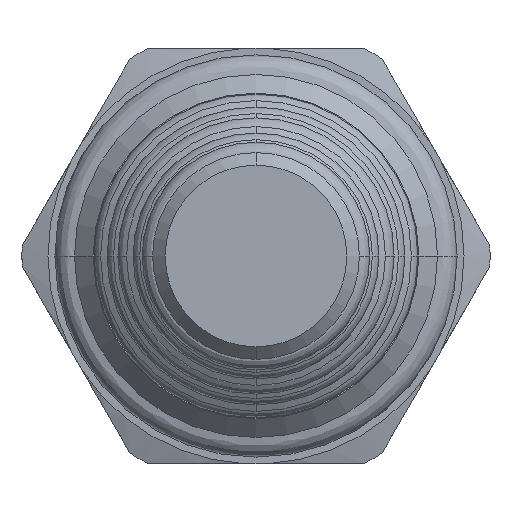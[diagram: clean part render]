
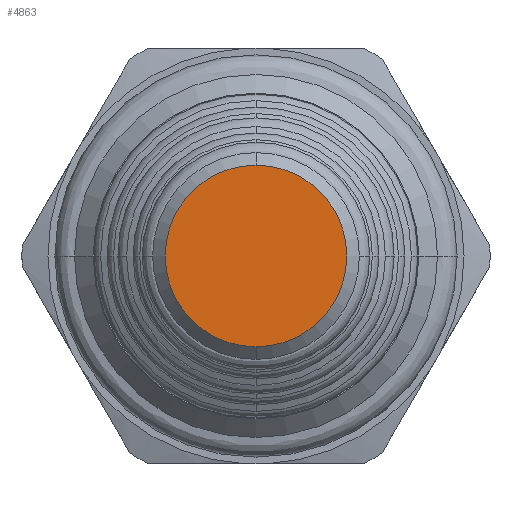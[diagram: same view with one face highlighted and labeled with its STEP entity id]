
A CAD part, front view. The second image highlights one B-rep face of the part: STEP entity #4863.
In plain terms, the highlighted planar face has unit normal (0, -1, 0).
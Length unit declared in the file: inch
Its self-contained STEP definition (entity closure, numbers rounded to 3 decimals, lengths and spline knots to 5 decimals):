
#1059=CARTESIAN_POINT('',(0.,-3.696,0.));
#1060=DIRECTION('',(0.,-1.,0.));
#1061=DIRECTION('',(0.,0.,-1.));
#1062=AXIS2_PLACEMENT_3D('',#1059,#1060,#1061);
#1064=CARTESIAN_POINT('',(0.,-3.696,0.));
#1065=DIRECTION('',(0.,-1.,0.));
#1066=DIRECTION('',(0.,0.,1.));
#1067=AXIS2_PLACEMENT_3D('',#1064,#1065,#1066);
#2887=CARTESIAN_POINT('',(0.,-3.696,-0.2185));
#2888=CARTESIAN_POINT('',(0.,-3.696,0.2185));
#2889=VERTEX_POINT('',#2887);
#2890=VERTEX_POINT('',#2888);
#4853=CARTESIAN_POINT('',(0.,-3.696,0.));
#4854=DIRECTION('',(0.,1.,0.));
#4855=DIRECTION('',(-1.,0.,0.));
#4856=AXIS2_PLACEMENT_3D('',#4853,#4854,#4855);
#4857=PLANE('',#4856);
#4858=ORIENTED_EDGE('',*,*,#4843,.F.);
#4860=ORIENTED_EDGE('',*,*,#4859,.F.);
#4861=EDGE_LOOP('',(#4858,#4860));
#4862=FACE_OUTER_BOUND('',#4861,.F.);
#4863=ADVANCED_FACE('',(#4862),#4857,.F.);
#1063=CIRCLE('',#1062,0.2185);
#1068=CIRCLE('',#1067,0.2185);
#4843=EDGE_CURVE('',#2889,#2890,#1063,.T.);
#4859=EDGE_CURVE('',#2890,#2889,#1068,.T.);
